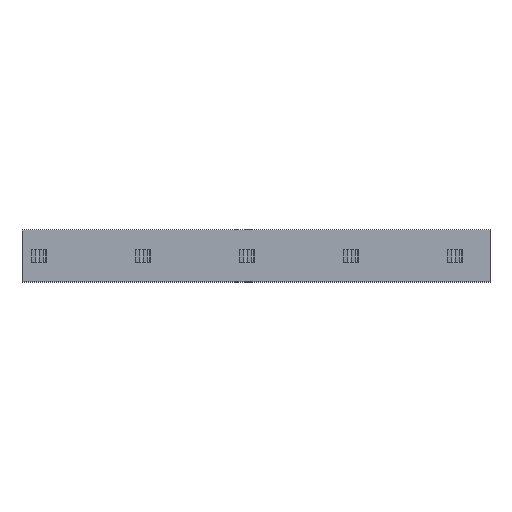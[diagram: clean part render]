
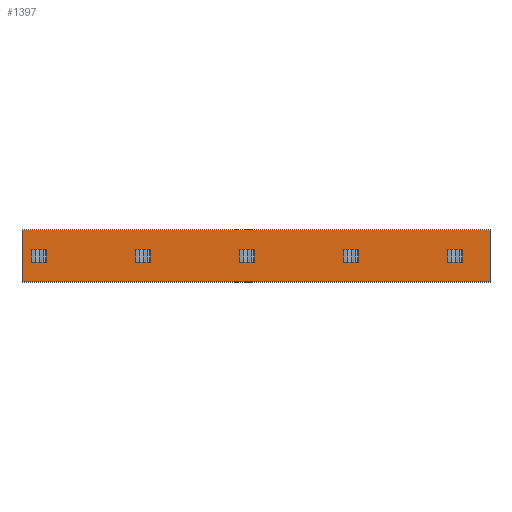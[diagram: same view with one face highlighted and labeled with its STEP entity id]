
A CAD part, top view. The second image highlights one B-rep face of the part: STEP entity #1397.
In plain terms, the highlighted planar face has unit normal (0, 0, 1).
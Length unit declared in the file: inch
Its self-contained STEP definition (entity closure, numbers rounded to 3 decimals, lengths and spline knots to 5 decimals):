
#119=FACE_OUTER_BOUND('',#217,.T.);
#217=EDGE_LOOP('',(#939,#940,#941,#942));
#311=LINE('',#2104,#467);
#315=LINE('',#2112,#471);
#318=LINE('',#2118,#474);
#321=LINE('',#2123,#477);
#467=VECTOR('',#1648,8.);
#471=VECTOR('',#1654,72.);
#474=VECTOR('',#1659,8.);
#477=VECTOR('',#1664,72.);
#623=VERTEX_POINT('',#2102);
#624=VERTEX_POINT('',#2103);
#627=VERTEX_POINT('',#2111);
#629=VERTEX_POINT('',#2117);
#727=EDGE_CURVE('',#623,#624,#311,.T.);
#731=EDGE_CURVE('',#624,#627,#315,.T.);
#734=EDGE_CURVE('',#627,#629,#318,.T.);
#737=EDGE_CURVE('',#629,#623,#321,.T.);
#939=ORIENTED_EDGE('',*,*,#727,.F.);
#940=ORIENTED_EDGE('',*,*,#737,.F.);
#941=ORIENTED_EDGE('',*,*,#734,.F.);
#942=ORIENTED_EDGE('',*,*,#731,.F.);
#1319=PLANE('',#1499);
#1397=ADVANCED_FACE('',(#119),#1319,.T.);
#1499=AXIS2_PLACEMENT_3D('',#2125,#1666,#1667);
#1648=DIRECTION('',(0.,-1.,0.));
#1654=DIRECTION('',(-1.,0.,0.));
#1659=DIRECTION('',(0.,1.,0.));
#1664=DIRECTION('',(1.,0.,0.));
#1666=DIRECTION('center_axis',(0.,0.,1.));
#1667=DIRECTION('ref_axis',(1.,0.,0.));
#2102=CARTESIAN_POINT('',(36.,4.,0.0593));
#2103=CARTESIAN_POINT('',(36.,-4.,0.0593));
#2104=CARTESIAN_POINT('',(36.,4.,0.0593));
#2111=CARTESIAN_POINT('',(-36.,-4.,0.0593));
#2112=CARTESIAN_POINT('',(36.,-4.,0.0593));
#2117=CARTESIAN_POINT('',(-36.,4.,0.0593));
#2118=CARTESIAN_POINT('',(-36.,-4.,0.0593));
#2123=CARTESIAN_POINT('',(-36.,4.,0.0593));
#2125=CARTESIAN_POINT('Origin',(0.,0.,
0.0593));
